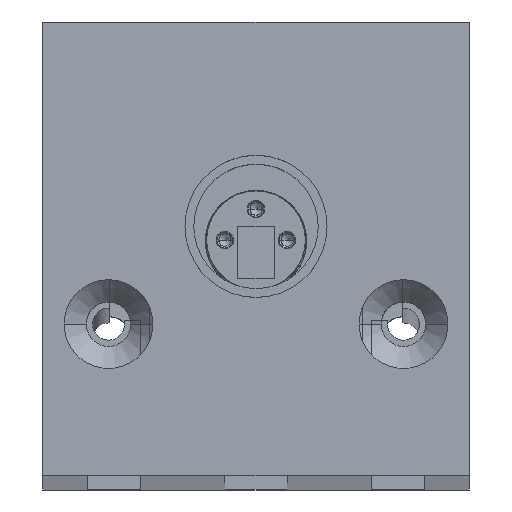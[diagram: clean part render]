
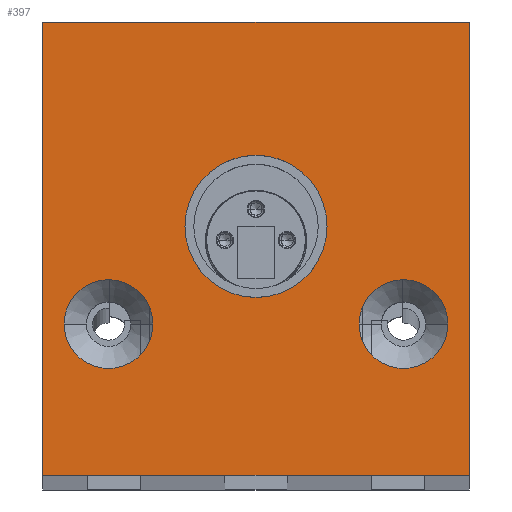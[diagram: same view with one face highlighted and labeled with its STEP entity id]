
A CAD part, top view. The second image highlights one B-rep face of the part: STEP entity #397.
In plain terms, the highlighted planar face has unit normal (0, 0, 1).
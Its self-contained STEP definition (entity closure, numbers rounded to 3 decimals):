
#397=ADVANCED_FACE('',(#1088,#1089,#1090,#1091),#1092,.T.);
#1088=FACE_BOUND('',#2108,.T.);
#1089=FACE_BOUND('',#2109,.T.);
#1090=FACE_BOUND('',#2110,.T.);
#1091=FACE_OUTER_BOUND('',#2111,.T.);
#1092=PLANE('',#2112);
#2108=EDGE_LOOP('',(#3324,#3325));
#2109=EDGE_LOOP('',(#3326,#3327));
#2110=EDGE_LOOP('',(#3328,#3329));
#2111=EDGE_LOOP('',(#3330,#3331,#3332,#3333));
#2112=AXIS2_PLACEMENT_3D('',#3334,#3335,#3336);
#3324=ORIENTED_EDGE('',*,*,#6263,.T.);
#3325=ORIENTED_EDGE('',*,*,#6264,.T.);
#3326=ORIENTED_EDGE('',*,*,#6265,.T.);
#3327=ORIENTED_EDGE('',*,*,#6266,.T.);
#3328=ORIENTED_EDGE('',*,*,#6267,.T.);
#3329=ORIENTED_EDGE('',*,*,#6268,.T.);
#3330=ORIENTED_EDGE('',*,*,#6269,.T.);
#3331=ORIENTED_EDGE('',*,*,#6270,.T.);
#3332=ORIENTED_EDGE('',*,*,#6271,.T.);
#3333=ORIENTED_EDGE('',*,*,#6272,.T.);
#3334=CARTESIAN_POINT('',(0.,0.,240.0));
#3335=DIRECTION('',(0.,0.,1.0));
#3336=DIRECTION('',(1.0,0.,0.));
#6263=EDGE_CURVE('',#7556,#7557,#7558,.T.);
#6264=EDGE_CURVE('',#7557,#7556,#7559,.T.);
#6265=EDGE_CURVE('',#7560,#7561,#7562,.T.);
#6266=EDGE_CURVE('',#7561,#7560,#7563,.T.);
#6267=EDGE_CURVE('',#7564,#7565,#7566,.T.);
#6268=EDGE_CURVE('',#7565,#7564,#7567,.T.);
#6269=EDGE_CURVE('',#7568,#7569,#7570,.T.);
#6270=EDGE_CURVE('',#7569,#7571,#7572,.T.);
#6271=EDGE_CURVE('',#7571,#7573,#7574,.T.);
#6272=EDGE_CURVE('',#7573,#7568,#7575,.T.);
#7556=VERTEX_POINT('',#9672);
#7557=VERTEX_POINT('',#9673);
#7558=CIRCLE('',#9674,4.0);
#7559=CIRCLE('',#9675,4.0);
#7560=VERTEX_POINT('',#9676);
#7561=VERTEX_POINT('',#9677);
#7562=CIRCLE('',#9678,2.5);
#7563=CIRCLE('',#9679,2.5);
#7564=VERTEX_POINT('',#9680);
#7565=VERTEX_POINT('',#9681);
#7566=CIRCLE('',#9682,2.5);
#7567=CIRCLE('',#9683,2.5);
#7568=VERTEX_POINT('',#9684);
#7569=VERTEX_POINT('',#9685);
#7570=LINE('',#9686,#9687);
#7571=VERTEX_POINT('',#9688);
#7572=LINE('',#9689,#9690);
#7573=VERTEX_POINT('',#9691);
#7574=LINE('',#9692,#9693);
#7575=LINE('',#9694,#9695);
#9672=CARTESIAN_POINT('',(-4.,1.25,240.0));
#9673=CARTESIAN_POINT('',(4.,1.25,240.0));
#9674=AXIS2_PLACEMENT_3D('',#13293,#13294,#13295);
#9675=AXIS2_PLACEMENT_3D('',#13296,#13297,#13298);
#9676=CARTESIAN_POINT('',(-5.8,-4.25,240.0));
#9677=CARTESIAN_POINT('',(-10.8,-4.25,240.0));
#9678=AXIS2_PLACEMENT_3D('',#13299,#13300,#13301);
#9679=AXIS2_PLACEMENT_3D('',#13302,#13303,#13304);
#9680=CARTESIAN_POINT('',(10.8,-4.25,240.0));
#9681=CARTESIAN_POINT('',(5.8,-4.25,240.0));
#9682=AXIS2_PLACEMENT_3D('',#13305,#13306,#13307);
#9683=AXIS2_PLACEMENT_3D('',#13308,#13309,#13310);
#9684=CARTESIAN_POINT('',(12.0,-12.75,240.0));
#9685=CARTESIAN_POINT('',(12.0,12.75,240.0));
#9686=CARTESIAN_POINT('',(12.0,0.,240.0));
#9687=VECTOR('',#13311,1.);
#9688=CARTESIAN_POINT('',(-12.0,12.75,240.0));
#9689=CARTESIAN_POINT('',(0.,12.75,240.0));
#9690=VECTOR('',#13312,1.);
#9691=CARTESIAN_POINT('',(-12.0,-12.75,240.0));
#9692=CARTESIAN_POINT('',(-12.0,0.,240.0));
#9693=VECTOR('',#13313,1.);
#9694=CARTESIAN_POINT('',(0.,-12.75,240.0));
#9695=VECTOR('',#13314,1.);
#13293=CARTESIAN_POINT('',(0.,1.25,240.0));
#13294=DIRECTION('',(0.,0.,-1.0));
#13295=DIRECTION('',(-1.0,0.,0.));
#13296=CARTESIAN_POINT('',(0.,1.25,240.0));
#13297=DIRECTION('',(0.,0.,-1.0));
#13298=DIRECTION('',(-1.0,0.,0.));
#13299=CARTESIAN_POINT('',(-8.3,-4.25,240.0));
#13300=DIRECTION('',(0.,0.,-1.0));
#13301=DIRECTION('',(1.0,0.,0.));
#13302=CARTESIAN_POINT('',(-8.3,-4.25,240.0));
#13303=DIRECTION('',(0.,0.,-1.0));
#13304=DIRECTION('',(1.0,0.,0.));
#13305=CARTESIAN_POINT('',(8.3,-4.25,240.0));
#13306=DIRECTION('',(0.,0.,-1.0));
#13307=DIRECTION('',(1.0,0.,0.));
#13308=CARTESIAN_POINT('',(8.3,-4.25,240.0));
#13309=DIRECTION('',(0.,0.,-1.0));
#13310=DIRECTION('',(1.0,0.,0.));
#13311=DIRECTION('',(0.,1.0,0.));
#13312=DIRECTION('',(-1.0,0.,0.));
#13313=DIRECTION('',(0.,-1.0,0.));
#13314=DIRECTION('',(1.0,0.,0.));
